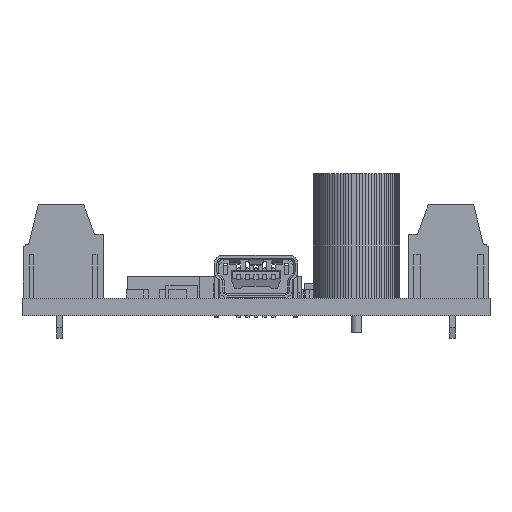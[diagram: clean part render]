
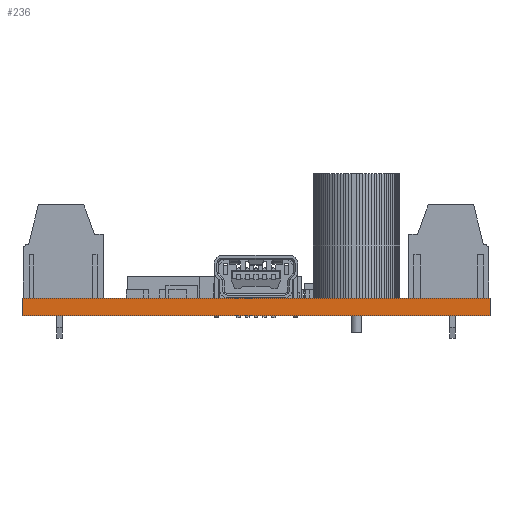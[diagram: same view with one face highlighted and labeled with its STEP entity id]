
A CAD part, front view. The second image highlights one B-rep face of the part: STEP entity #236.
In plain terms, the highlighted planar face has unit normal (0, -1, 0).
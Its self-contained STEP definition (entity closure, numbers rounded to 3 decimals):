
#236 = ADVANCED_FACE('',(#237),#251,.F.);
#237 = FACE_BOUND('',#238,.F.);
#238 = EDGE_LOOP('',(#239,#274,#302,#330));
#239 = ORIENTED_EDGE('',*,*,#240,.T.);
#240 = EDGE_CURVE('',#241,#243,#245,.T.);
#241 = VERTEX_POINT('',#242);
#242 = CARTESIAN_POINT('',(25.4,25.4,0.));
#243 = VERTEX_POINT('',#244);
#244 = CARTESIAN_POINT('',(25.4,25.4,1.6));
#245 = SURFACE_CURVE('',#246,(#250,#262),.PCURVE_S1.);
#246 = LINE('',#247,#248);
#247 = CARTESIAN_POINT('',(25.4,25.4,0.));
#248 = VECTOR('',#249,1.);
#249 = DIRECTION('',(0.,0.,1.));
#250 = PCURVE('',#251,#256);
#251 = PLANE('',#252);
#252 = AXIS2_PLACEMENT_3D('',#253,#254,#255);
#253 = CARTESIAN_POINT('',(25.4,25.4,0.));
#254 = DIRECTION('',(0.,1.,0.));
#255 = DIRECTION('',(1.,0.,0.));
#256 = DEFINITIONAL_REPRESENTATION('',(#257),#261);
#257 = LINE('',#258,#259);
#258 = CARTESIAN_POINT('',(0.,0.));
#259 = VECTOR('',#260,1.);
#260 = DIRECTION('',(0.,-1.));
#261 = ( GEOMETRIC_REPRESENTATION_CONTEXT(2) 
PARAMETRIC_REPRESENTATION_CONTEXT() REPRESENTATION_CONTEXT('2D SPACE',''
  ) );
#262 = PCURVE('',#263,#268);
#263 = PLANE('',#264);
#264 = AXIS2_PLACEMENT_3D('',#265,#266,#267);
#265 = CARTESIAN_POINT('',(25.4,73.66,0.));
#266 = DIRECTION('',(1.,0.,0.));
#267 = DIRECTION('',(0.,-1.,0.));
#268 = DEFINITIONAL_REPRESENTATION('',(#269),#273);
#269 = LINE('',#270,#271);
#270 = CARTESIAN_POINT('',(48.26,0.));
#271 = VECTOR('',#272,1.);
#272 = DIRECTION('',(0.,-1.));
#273 = ( GEOMETRIC_REPRESENTATION_CONTEXT(2) 
PARAMETRIC_REPRESENTATION_CONTEXT() REPRESENTATION_CONTEXT('2D SPACE',''
  ) );
#274 = ORIENTED_EDGE('',*,*,#275,.T.);
#275 = EDGE_CURVE('',#243,#276,#278,.T.);
#276 = VERTEX_POINT('',#277);
#277 = CARTESIAN_POINT('',(68.58,25.4,1.6));
#278 = SURFACE_CURVE('',#279,(#283,#290),.PCURVE_S1.);
#279 = LINE('',#280,#281);
#280 = CARTESIAN_POINT('',(25.4,25.4,1.6));
#281 = VECTOR('',#282,1.);
#282 = DIRECTION('',(1.,0.,0.));
#283 = PCURVE('',#251,#284);
#284 = DEFINITIONAL_REPRESENTATION('',(#285),#289);
#285 = LINE('',#286,#287);
#286 = CARTESIAN_POINT('',(0.,-1.6));
#287 = VECTOR('',#288,1.);
#288 = DIRECTION('',(1.,0.));
#289 = ( GEOMETRIC_REPRESENTATION_CONTEXT(2) 
PARAMETRIC_REPRESENTATION_CONTEXT() REPRESENTATION_CONTEXT('2D SPACE',''
  ) );
#290 = PCURVE('',#291,#296);
#291 = PLANE('',#292);
#292 = AXIS2_PLACEMENT_3D('',#293,#294,#295);
#293 = CARTESIAN_POINT('',(25.4,25.4,1.6));
#294 = DIRECTION('',(0.,0.,-1.));
#295 = DIRECTION('',(-1.,0.,0.));
#296 = DEFINITIONAL_REPRESENTATION('',(#297),#301);
#297 = LINE('',#298,#299);
#298 = CARTESIAN_POINT('',(0.,0.));
#299 = VECTOR('',#300,1.);
#300 = DIRECTION('',(-1.,0.));
#301 = ( GEOMETRIC_REPRESENTATION_CONTEXT(2) 
PARAMETRIC_REPRESENTATION_CONTEXT() REPRESENTATION_CONTEXT('2D SPACE',''
  ) );
#302 = ORIENTED_EDGE('',*,*,#303,.F.);
#303 = EDGE_CURVE('',#304,#276,#306,.T.);
#304 = VERTEX_POINT('',#305);
#305 = CARTESIAN_POINT('',(68.58,25.4,0.));
#306 = SURFACE_CURVE('',#307,(#311,#318),.PCURVE_S1.);
#307 = LINE('',#308,#309);
#308 = CARTESIAN_POINT('',(68.58,25.4,0.));
#309 = VECTOR('',#310,1.);
#310 = DIRECTION('',(0.,0.,1.));
#311 = PCURVE('',#251,#312);
#312 = DEFINITIONAL_REPRESENTATION('',(#313),#317);
#313 = LINE('',#314,#315);
#314 = CARTESIAN_POINT('',(43.18,0.));
#315 = VECTOR('',#316,1.);
#316 = DIRECTION('',(0.,-1.));
#317 = ( GEOMETRIC_REPRESENTATION_CONTEXT(2) 
PARAMETRIC_REPRESENTATION_CONTEXT() REPRESENTATION_CONTEXT('2D SPACE',''
  ) );
#318 = PCURVE('',#319,#324);
#319 = PLANE('',#320);
#320 = AXIS2_PLACEMENT_3D('',#321,#322,#323);
#321 = CARTESIAN_POINT('',(68.58,25.4,0.));
#322 = DIRECTION('',(-1.,0.,0.));
#323 = DIRECTION('',(0.,1.,0.));
#324 = DEFINITIONAL_REPRESENTATION('',(#325),#329);
#325 = LINE('',#326,#327);
#326 = CARTESIAN_POINT('',(0.,0.));
#327 = VECTOR('',#328,1.);
#328 = DIRECTION('',(0.,-1.));
#329 = ( GEOMETRIC_REPRESENTATION_CONTEXT(2) 
PARAMETRIC_REPRESENTATION_CONTEXT() REPRESENTATION_CONTEXT('2D SPACE',''
  ) );
#330 = ORIENTED_EDGE('',*,*,#331,.F.);
#331 = EDGE_CURVE('',#241,#304,#332,.T.);
#332 = SURFACE_CURVE('',#333,(#337,#344),.PCURVE_S1.);
#333 = LINE('',#334,#335);
#334 = CARTESIAN_POINT('',(25.4,25.4,0.));
#335 = VECTOR('',#336,1.);
#336 = DIRECTION('',(1.,0.,0.));
#337 = PCURVE('',#251,#338);
#338 = DEFINITIONAL_REPRESENTATION('',(#339),#343);
#339 = LINE('',#340,#341);
#340 = CARTESIAN_POINT('',(0.,0.));
#341 = VECTOR('',#342,1.);
#342 = DIRECTION('',(1.,0.));
#343 = ( GEOMETRIC_REPRESENTATION_CONTEXT(2) 
PARAMETRIC_REPRESENTATION_CONTEXT() REPRESENTATION_CONTEXT('2D SPACE',''
  ) );
#344 = PCURVE('',#345,#350);
#345 = PLANE('',#346);
#346 = AXIS2_PLACEMENT_3D('',#347,#348,#349);
#347 = CARTESIAN_POINT('',(25.4,25.4,0.));
#348 = DIRECTION('',(0.,0.,-1.));
#349 = DIRECTION('',(-1.,0.,0.));
#350 = DEFINITIONAL_REPRESENTATION('',(#351),#355);
#351 = LINE('',#352,#353);
#352 = CARTESIAN_POINT('',(0.,0.));
#353 = VECTOR('',#354,1.);
#354 = DIRECTION('',(-1.,0.));
#355 = ( GEOMETRIC_REPRESENTATION_CONTEXT(2) 
PARAMETRIC_REPRESENTATION_CONTEXT() REPRESENTATION_CONTEXT('2D SPACE',''
  ) );
